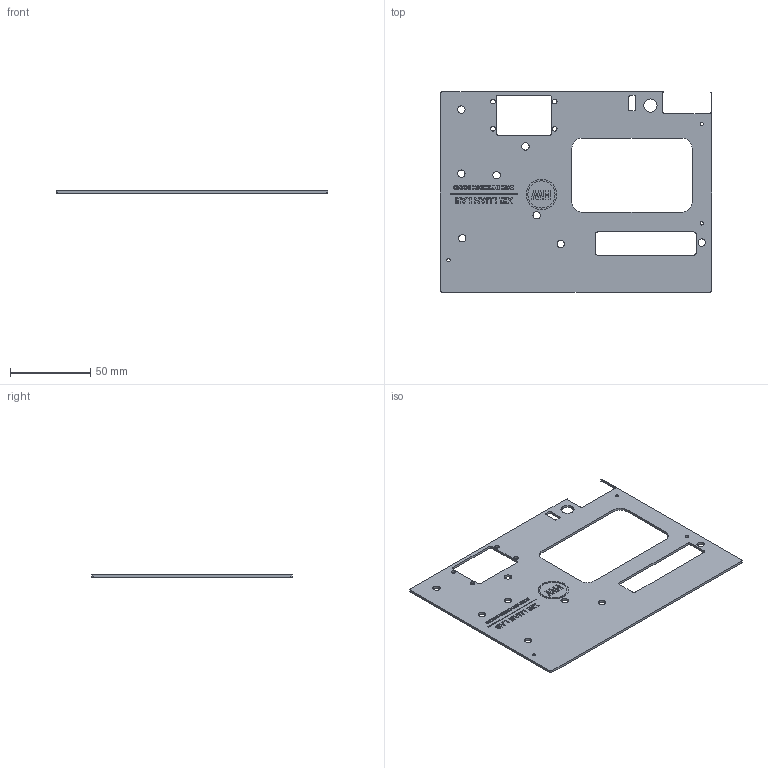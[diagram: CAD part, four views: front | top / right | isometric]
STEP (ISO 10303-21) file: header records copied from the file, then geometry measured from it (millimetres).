
FILE_DESCRIPTION(('Open CASCADE Model'),'2;1');
FILE_NAME('Open CASCADE Shape Model','2026-11-10T13:53:38',('Author'),( 'Open CASCADE'),'Open CASCADE STEP processor 7.7','Open CASCADE 7.7' ,'Unknown');
FILE_SCHEMA(('AUTOMOTIVE_DESIGN { 1 0 10303 214 1 1 1 1 }'));
Length unit declared in the file: millimetre
Products named in the file (1): Open CASCADE STEP translator 7.7 3
Bounding box: 169.3 x 124.9 x 1.5 mm (x, y, z)
Volume: 22836.4 mm3; surface area: 32910.8 mm2
Topology: 1 solids, 1 shells, 544 faces, 1491 edges, 994 vertices
Faces by surface type: plane 328, extrusion 174, cylinder 42
Full cylindrical faces by diameter (mm): 2.1 x3, 2.9 x4, 4.6 x8, 8.3 x1, 17 x1, 19 x1
Entity records: 36803 total; most frequent: CARTESIAN_POINT 8062, DIRECTION 4652, VECTOR 3695, LINE 3521, ORIENTED_EDGE 2982, PCURVE 2982, DEFINITIONAL_REPRESENTATION 2982, EDGE_CURVE 1491
